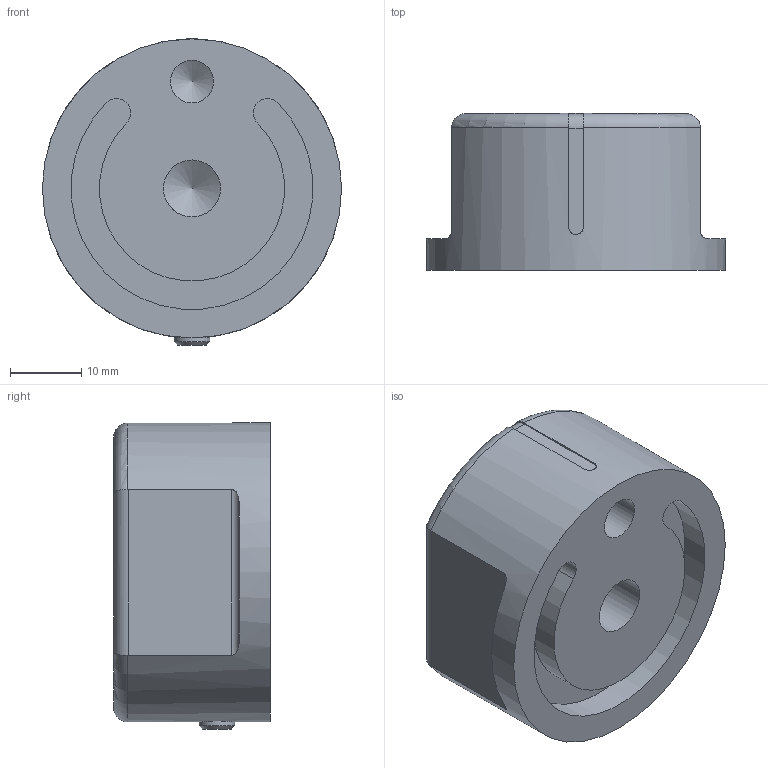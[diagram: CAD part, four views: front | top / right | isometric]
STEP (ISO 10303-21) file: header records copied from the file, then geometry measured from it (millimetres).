
FILE_DESCRIPTION( ( 'STEP AP203' ), '1' );
FILE_NAME( 'C:/Temp/Ganter_Step_05_03_2020/data/1_4/gn_729/Control knob GN 729-42-B8.stp', '2020-03-05T10:51:02', ( 'License CC BY-ND 4.0' ), ( 'CADENAS' ), ' ', 'PARTsolutions', ' ' );
FILE_SCHEMA( ( 'CONFIG_CONTROL_DESIGN' ) );
Length unit declared in the file: millimetre
Products named in the file (1): _Control knob GN 729-42-B8
Bounding box: 42 x 22 x 43 mm (x, y, z)
Volume: 26063.2 mm3; surface area: 6781.1 mm2
Topology: 1 solids, 1 shells, 43 faces, 114 edges, 75 vertices
Faces by surface type: plane 20, cylinder 16, cone 4, torus 3
Full cylindrical faces by diameter (mm): 5 x2, 6 x1, 8 x1, 42 x1
Entity records: 1540 total; most frequent: CARTESIAN_POINT 523, DIRECTION 196, ORIENTED_EDGE 190, EDGE_CURVE 95, AXIS2_PLACEMENT_3D 74, VERTEX_POINT 69, EDGE_LOOP 56, FACE_OUTER_BOUND 48
